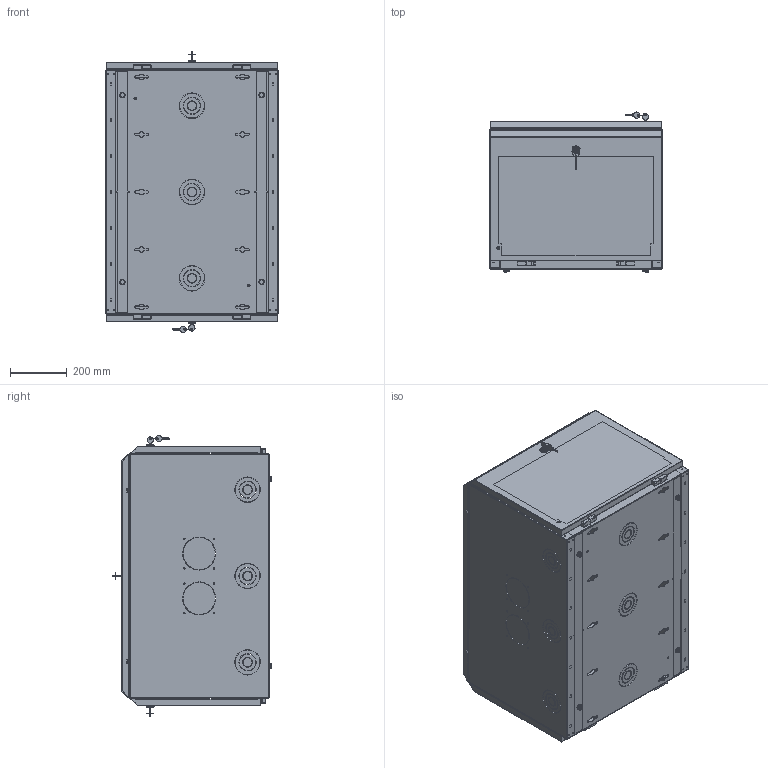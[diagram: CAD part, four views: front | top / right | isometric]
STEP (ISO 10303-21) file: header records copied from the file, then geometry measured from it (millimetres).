
FILE_DESCRIPTION(/* description */ ('24"H x 36"W x 20.5"D SERVER WALL MOUNT ASSEMBLY'),/* implementation_level */ '2;1');
FILE_NAME(/* name */ 'C:\GL-Vault\Inventor\side GLCC projects\Website Demo\WE\GL24WE-B-00.stp',/* time_stamp */ '2020-06-25T15:12:06-04:00',/* author */ ('HenryM'),/* organization */ (''),/* preprocessor_version */ 'ST-DEVELOPER v17',/* originating_system */ 'Autodesk Inventor 2018',/* authorisation */ '');
FILE_SCHEMA (('AUTOMOTIVE_DESIGN { 1 0 10303 214 3 1 1 }'));
Length unit declared in the file: inch
Products named in the file (38): 24WE3100; I003915; I003910; I003912; I003911; I003911_1; I003913; I003913_1; SS0321; I003914; N524; strut nut 25-20 - body; strut nut - coil spring; 1420X12SC; I003916; I003916_1; 12SWS0872; I003917; I003918; I003919; CN-050CHBS; H01-034 MS; SCR1032X500BLK; 200-0628; 10117-32728;  _1;  _2;  _3;  _4;  _5; GASKET1/2X1/16; 2ZN746; 2ZN143813; 961050050; 961050050 ; 96-10-500-50 male; 96-10-500-50 female
Assembly tree (93 placements, depth 4):
  24WE3100
    961050050  x2
      96-10-500-50 male
      96-10-500-50 female
    961050050   x2
      96-10-500-50 male
      96-10-500-50 female
    I003915  x4
    I003910
      I003912  x2
      I003911
        I003911_1
        CN-050CHBS  x2
      I003913  x2
        I003913_1
        SS0321
      I003914  x2
    N524  x4
      strut nut 25-20 - body
      strut nut - coil spring
    1420X12SC  x4
    I003916
      I003916_1
      CN-050CHBS
    SCR1032X500BLK  x12
    GASKET1/2X1/16  x4
    12SWS0872  x4
    10117-32728  x3
       
       _1
       _2
       _4
       _3
       _5
    200-0628  x3
    I003917  x2
      I003918
      I003919
      CN-050CHBS
    H01-034 MS  x8
    2ZN746  x4
    2ZN143813  x4
Bounding box: 609.6 x 564.72 x 993.4 mm (x, y, z)
Volume: 5700411.8 mm3; surface area: 8222923.3 mm2
Topology: 108 solids, 108 shells, 3786 faces, 10055 edges, 6550 vertices
Faces by surface type: plane 2513, cylinder 1009, bspline 90, sphere 68, torus 68, cone 38
Full cylindrical faces by diameter (mm): 0.762 x5, 1.27 x4, 3.251 x24, 3.962 x20, 4.775 x16, 4.826 x20, 4.978 x3, 5.08 x4, 5.105 x16, 5.156 x16, 5.258 x4, 5.994 x5, 6.35 x32, 6.756 x8, 7.137 x4, 7.493 x4, 8.077 x5, 8.636 x4, 9.525 x28, 10.719 x4, 11.43 x3, 11.76 x5, 11.938 x3, 12.065 x4, 12.7 x3, 13.208 x4, 13.97 x5, 14.287 x8, 16.51 x3, 17.018 x3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
Entity records: 52168 total; most frequent: CARTESIAN_POINT 11974, DIRECTION 8048, ORIENTED_EDGE 8022, EDGE_CURVE 4011, LINE 2766, VECTOR 2766, VERTEX_POINT 2646, AXIS2_PLACEMENT_3D 2641
